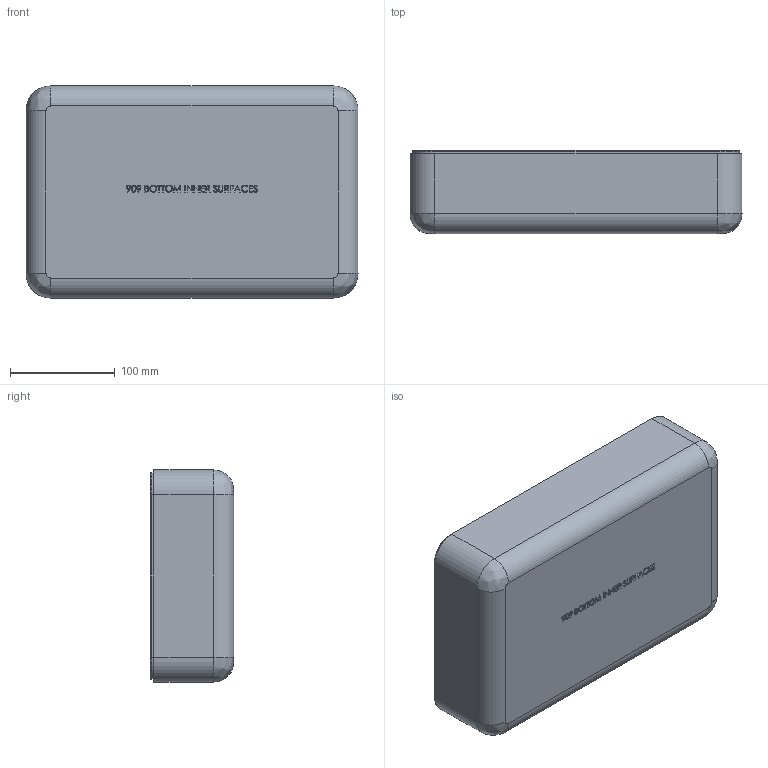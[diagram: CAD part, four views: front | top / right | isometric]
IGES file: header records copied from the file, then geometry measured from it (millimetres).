
Start section: SolidWorks IGES file using analytic representation for surfaces
Global section: file name: C:\Working Folder\909\inner surf\909_Btm_Inner_Surfaces.IGS; native system: SolidWorks 2015; preprocessor: SolidWorks 2015; author: MKeighan; date: 171122.160405; units: inch
Bounding box: 316.29 x 79.5 x 201.99 mm (x, y, z)
Surface area: 255122.7 mm2 (no closed solid volume)
Topology: 0 solids, 0 shells, 980 faces, 11239 edges, 11232 vertices
Faces by surface type: bspline 786, revolution 194
